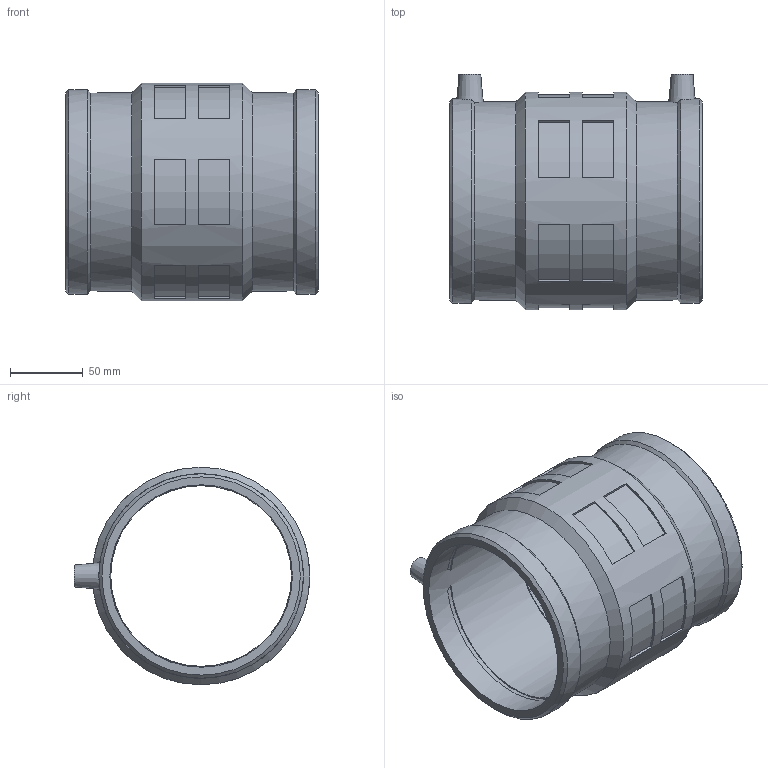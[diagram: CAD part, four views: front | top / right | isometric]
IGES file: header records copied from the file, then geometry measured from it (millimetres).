
Global section: file name: 460104125.ipt; native system: Autodesk Inventor 2015; preprocessor: unknown; author: KIM; date: 20171106.093415; units: millimetre
Bounding box: 173 x 161.5 x 149 mm (x, y, z)
Volume: 622565.9 mm3; surface area: 159832.4 mm2
Topology: 1 solids, 1 shells, 98 faces, 240 edges, 160 vertices
Faces by surface type: plane 60, cylinder 19, cone 12, revolution 7
Full cylindrical faces by diameter (mm): 4 x2, 135.858 x2, 140.06 x2, 149 x1
